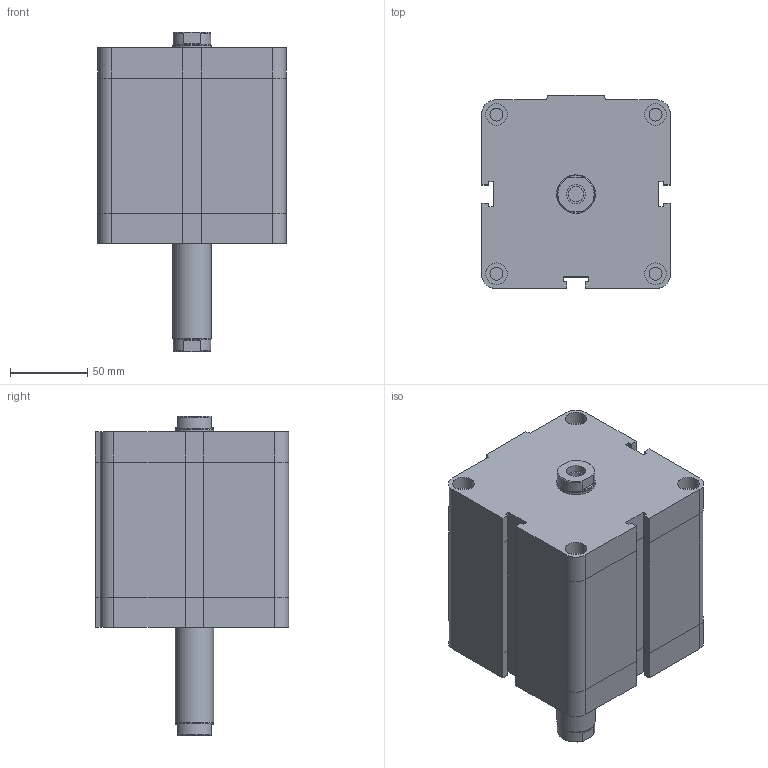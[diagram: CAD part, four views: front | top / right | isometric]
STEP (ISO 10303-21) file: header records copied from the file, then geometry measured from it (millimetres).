
FILE_DESCRIPTION((''),'2;1');
FILE_NAME('I:\Area Tecnica\Disegni\VARIE-3D\Componenti\EUROPE\15##_###_####_03_#\1581_100_0060_03_1.iam.stp','2009-04-20T14:38:46',(''),(''),'Autodesk Inventor 2009','Autodesk Inventor 2009','');
FILE_SCHEMA(('AUTOMOTIVE_DESIGN { 1 0 10303 214 1 1 1 1 }'));
Length unit declared in the file: millimetre
Products named in the file (3): 1581_100_0060_03_1; 1581_100_0060_03_1_C; 1561_100_0060_03_1_S
Assembly tree (2 placements, depth 2):
  1581_100_0060_03_1
    1581_100_0060_03_1_C
    1561_100_0060_03_1_S
Bounding box: 122 x 125 x 206.5 mm (x, y, z)
Volume: 1865141.6 mm3; surface area: 132801.3 mm2
Topology: 2 solids, 2 shells, 174 faces, 379 edges, 231 vertices
Faces by surface type: plane 114, bspline 29, cylinder 25, cone 6
Full cylindrical faces by diameter (mm): 8.376 x4, 10.106 x1, 12.3 x1, 14 x4, 24.5 x2, 25 x1
Entity records: 4758 total; most frequent: CARTESIAN_POINT 1020, DIRECTION 708, ORIENTED_EDGE 676, EDGE_CURVE 338, VECTOR 252, LINE 252, AXIS2_PLACEMENT_3D 228, EDGE_LOOP 226
